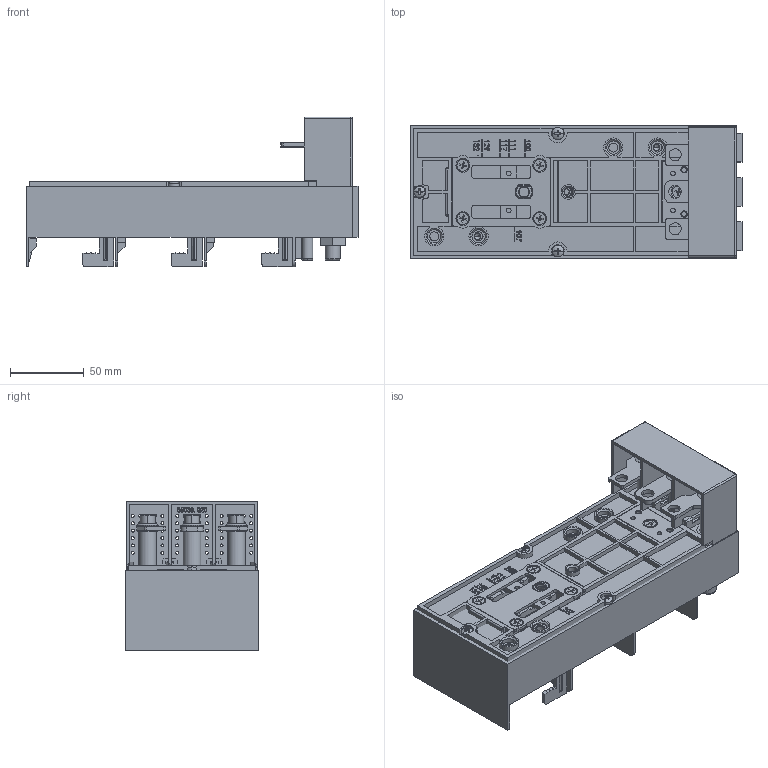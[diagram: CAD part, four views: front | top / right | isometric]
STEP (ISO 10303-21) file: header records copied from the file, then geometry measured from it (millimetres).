
FILE_DESCRIPTION (( 'STEP AP214' ), '1' );
FILE_NAME ('55178潠芞.ST', '2023-08-02T11:46:40', ( 'Windows User' ), ( 'P R C' ), 'SwSTEP 2.0', 'SolidWorks 2019', '' );
FILE_SCHEMA (( 'AUTOMOTIVE_DESIGN' ));
Length unit declared in the file: millimetre
Products named in the file (1): 55178潠芞赤_“a_
Bounding box: 224.5 x 90 x 101.3 mm (x, y, z)
Volume: 761400.6 mm3; surface area: 207389 mm2
Topology: 4 solids, 4 shells, 2741 faces, 7415 edges, 4793 vertices
Faces by surface type: plane 1593, cylinder 745, bspline 191, cone 160, torus 40, sphere 12
Entity records: 108856 total; most frequent: CARTESIAN_POINT 39446, ORIENTED_EDGE 14770, DIRECTION 13778, EDGE_CURVE 7385, LINE 5114, VECTOR 5114, VERTEX_POINT 4793, AXIS2_PLACEMENT_3D 4332
